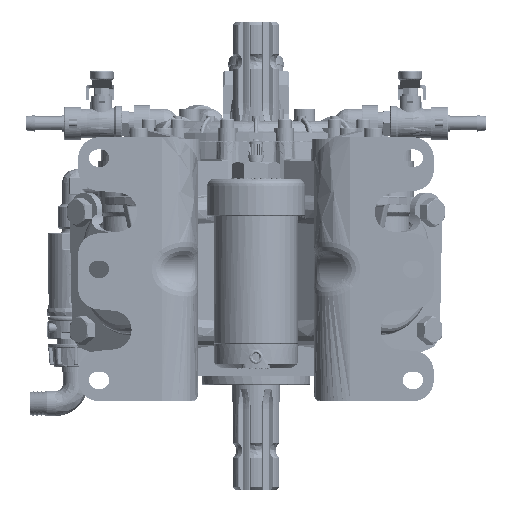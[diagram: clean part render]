
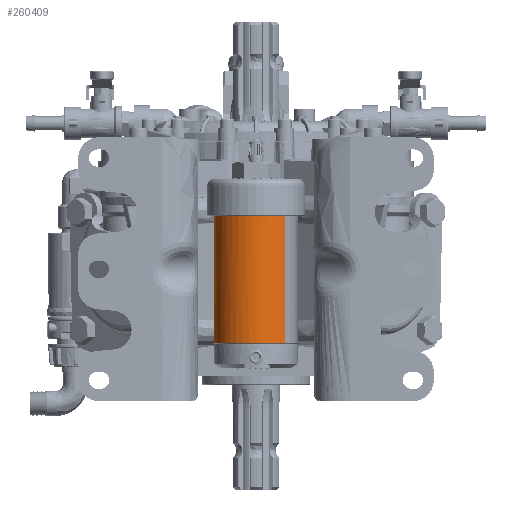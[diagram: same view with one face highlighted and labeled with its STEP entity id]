
A CAD part, front view. The second image highlights one B-rep face of the part: STEP entity #260409.
In plain terms, the highlighted cylindrical face has radius 30 mm (diameter 60 mm), a partial arc.
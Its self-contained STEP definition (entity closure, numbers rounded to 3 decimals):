
#76582 = CARTESIAN_POINT ( 'NONE',  ( -21.213, 67.152, 28.5 ) ) ;
#76586 = CARTESIAN_POINT ( 'NONE',  ( 21.213, 24.726, 28.5 ) ) ;
#76606 = CARTESIAN_POINT ( 'NONE',  ( 21.213, 24.726, -63. ) ) ;
#76610 = CARTESIAN_POINT ( 'NONE',  ( 0., 15.939, -63. ) ) ;
#76614 = CARTESIAN_POINT ( 'NONE',  ( -21.213, 67.152, -63. ) ) ;
#96193 = VERTEX_POINT ( 'NONE', #76582 ) ;
#96196 = VERTEX_POINT ( 'NONE', #76586 ) ;
#96212 = VERTEX_POINT ( 'NONE', #76606 ) ;
#96215 = VERTEX_POINT ( 'NONE', #76610 ) ;
#96218 = VERTEX_POINT ( 'NONE', #76614 ) ;
#213077 = LINE ( 'NONE', #302762, #213099 ) ;
#213089 = CIRCLE ( 'NONE', #247900, 30. ) ;
#213097 = CIRCLE ( 'NONE', #247962, 30. ) ;
#213099 = VECTOR ( 'NONE', #302718, 1000. ) ;
#213101 = CIRCLE ( 'NONE', #247968, 30. ) ;
#213103 = LINE ( 'NONE', #302786, #213107 ) ;
#213107 = VECTOR ( 'NONE', #302794, 1000. ) ;
#227383 = EDGE_LOOP ( 'NONE', ( #423392, #423397, #423403, #423408, #423414 ) ) ;
#231051 = FACE_OUTER_BOUND ( 'NONE', #227383, .T. ) ;
#231080 = CYLINDRICAL_SURFACE ( 'NONE', #294421, 30. ) ;
#235867 = EDGE_CURVE ( 'NONE', #96193, #96196, #213089, .T. ) ;
#235869 = EDGE_CURVE ( 'NONE', #96196, #96212, #213077, .T. ) ;
#235872 = EDGE_CURVE ( 'NONE', #96212, #96215, #213097, .T. ) ;
#235874 = EDGE_CURVE ( 'NONE', #96215, #96218, #213101, .T. ) ;
#235876 = EDGE_CURVE ( 'NONE', #96193, #96218, #213103, .T. ) ;
#243220 = DIRECTION ( 'NONE',  ( -0.707, 0.707, 0. ) ) ;
#243230 = DIRECTION ( 'NONE',  ( 0., 0., -1. ) ) ;
#243237 = CARTESIAN_POINT ( 'NONE',  ( 0., 45.939, 28.5 ) ) ;
#247900 = AXIS2_PLACEMENT_3D ( 'NONE', #302767, #302770, #302775 ) ;
#247962 = AXIS2_PLACEMENT_3D ( 'NONE', #302798, #302801, #302806 ) ;
#247968 = AXIS2_PLACEMENT_3D ( 'NONE', #302818, #302823, #302827 ) ;
#260409 = ADVANCED_FACE ( 'NONE', ( #231051 ), #231080, .F. ) ;
#294421 = AXIS2_PLACEMENT_3D ( 'NONE', #243237, #243230, #243220 ) ;
#302718 = DIRECTION ( 'NONE',  ( 0., 0., -1. ) ) ;
#302762 = CARTESIAN_POINT ( 'NONE',  ( 21.213, 24.726, 28.5 ) ) ;
#302767 = CARTESIAN_POINT ( 'NONE',  ( 0., 45.939, 28.5 ) ) ;
#302770 = DIRECTION ( 'NONE',  ( 0., 0., 1. ) ) ;
#302775 = DIRECTION ( 'NONE',  ( -0.707, 0.707, 0. ) ) ;
#302786 = CARTESIAN_POINT ( 'NONE',  ( -21.213, 67.152, 28.5 ) ) ;
#302794 = DIRECTION ( 'NONE',  ( 0., 0., -1. ) ) ;
#302798 = CARTESIAN_POINT ( 'NONE',  ( 0., 45.939, -63. ) ) ;
#302801 = DIRECTION ( 'NONE',  ( 0., 0., -1. ) ) ;
#302806 = DIRECTION ( 'NONE',  ( -0.707, 0.707, 0. ) ) ;
#302818 = CARTESIAN_POINT ( 'NONE',  ( 0., 45.939, -63. ) ) ;
#302823 = DIRECTION ( 'NONE',  ( 0., 0., -1. ) ) ;
#302827 = DIRECTION ( 'NONE',  ( -0.707, 0.707, 0. ) ) ;
#423392 = ORIENTED_EDGE ( 'NONE', *, *, #235867, .T. ) ;
#423397 = ORIENTED_EDGE ( 'NONE', *, *, #235869, .T. ) ;
#423403 = ORIENTED_EDGE ( 'NONE', *, *, #235872, .T. ) ;
#423408 = ORIENTED_EDGE ( 'NONE', *, *, #235874, .T. ) ;
#423414 = ORIENTED_EDGE ( 'NONE', *, *, #235876, .F. ) ;
